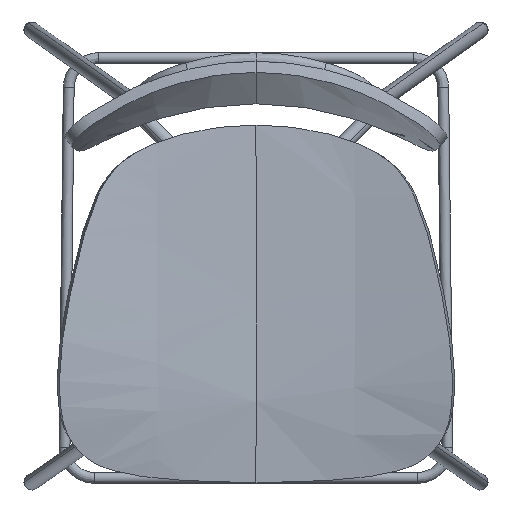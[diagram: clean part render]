
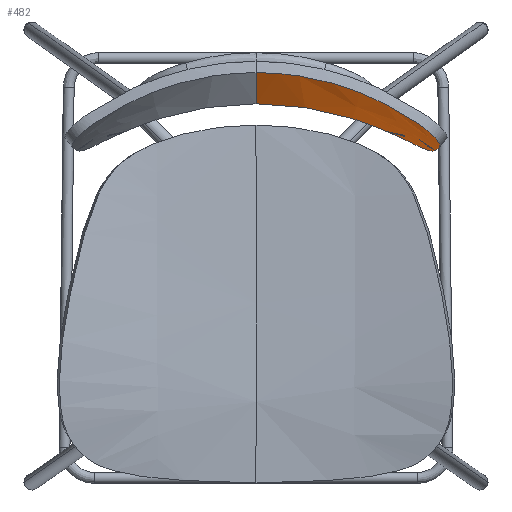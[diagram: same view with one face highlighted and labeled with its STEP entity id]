
A CAD part, top view. The second image highlights one B-rep face of the part: STEP entity #482.
In plain terms, the highlighted free-form (B-spline) face has degree [3, 2] with [5, 3] control points.
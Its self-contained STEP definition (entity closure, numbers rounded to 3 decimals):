
#262=B_SPLINE_CURVE_WITH_KNOTS('',3,(#8088,#8089,#8090,#8091,#8092,#8093,
#8094,#8095,#8096,#8097,#8098,#8099,#8100,#8101,#8102,#8103,#8104,#8105,
#8106,#8107,#8108,#8109,#8110,#8111,#8112,#8113,#8114,#8115,#8116,#8117,
#8118,#8119,#8120,#8121,#8122,#8123),.UNSPECIFIED.,.F.,.F.,(4,2,3,2,2,2,
2,3,3,2,2,2,2,3,2,4),(-142.402,-73.146,-3.882,
-3.638,-3.393,-3.269,-3.139,-2.882,
25.85,26.111,26.242,26.365,26.608,
26.85,115.079,203.244),.UNSPECIFIED.);
#482=ADVANCED_FACE('',(#672),#2588,.T.);
#672=FACE_OUTER_BOUND('',#864,.T.);
#864=EDGE_LOOP('',(#1578,#1579));
#1578=ORIENTED_EDGE('',*,*,#2028,.T.);
#1579=ORIENTED_EDGE('',*,*,#2026,.T.);
#2026=EDGE_CURVE('',#2515,#2514,#2282,.T.);
#2028=EDGE_CURVE('',#2514,#2515,#262,.T.);
#2282=(
BOUNDED_CURVE()
B_SPLINE_CURVE(3,(#8074,#8075,#8076,#8077,#8078,#8079,#8080),
 .UNSPECIFIED.,.F.,.F.)
B_SPLINE_CURVE_WITH_KNOTS((4,3,4),(-140.114,-70.057,
0.),.UNSPECIFIED.)
CURVE()
GEOMETRIC_REPRESENTATION_ITEM()
RATIONAL_B_SPLINE_CURVE((1.,0.965,0.931,0.898,
0.931,0.965,1.))
REPRESENTATION_ITEM('')
);
#2514=VERTEX_POINT('',#8070);
#2515=VERTEX_POINT('',#8071);
#2588=(
BOUNDED_SURFACE()
B_SPLINE_SURFACE(3,2,((#7860,#7861,#7862),(#7863,#7864,#7865),(#7866,#7867,
#7868),(#7869,#7870,#7871),(#7872,#7873,#7874)),.UNSPECIFIED.,.F.,.F.,.F.)
B_SPLINE_SURFACE_WITH_KNOTS((4,1,4),(3,3),(-5.332,70.057,
145.446),(-3.978,234.884),.UNSPECIFIED.)
GEOMETRIC_REPRESENTATION_ITEM()
RATIONAL_B_SPLINE_SURFACE(((1.003,0.898,0.898),
(1.003,0.898,0.898),(1.003,
0.898,0.898),(1.003,0.898,
0.898),(1.003,0.898,0.898)))
REPRESENTATION_ITEM('')
SURFACE()
);
#7860=CARTESIAN_POINT('',(189.507,139.669,903.515));
#7861=CARTESIAN_POINT('',(105.876,202.929,888.902));
#7862=CARTESIAN_POINT('',(0.,202.929,888.902));
#7863=CARTESIAN_POINT('',(189.507,143.816,928.328));
#7864=CARTESIAN_POINT('',(105.876,207.076,913.714));
#7865=CARTESIAN_POINT('',(0.,207.076,913.714));
#7866=CARTESIAN_POINT('',(189.507,153.615,977.605));
#7867=CARTESIAN_POINT('',(105.876,216.875,962.992));
#7868=CARTESIAN_POINT('',(0.,216.875,962.992));
#7869=CARTESIAN_POINT('',(189.507,166.422,1026.187));
#7870=CARTESIAN_POINT('',(105.876,229.682,1011.574));
#7871=CARTESIAN_POINT('',(0.,229.682,1011.574));
#7872=CARTESIAN_POINT('',(189.507,173.578,1050.305));
#7873=CARTESIAN_POINT('',(105.876,236.838,1035.691));
#7874=CARTESIAN_POINT('',(0.,236.838,1035.691));
#8070=CARTESIAN_POINT('',(0.,203.82,894.164));
#8071=CARTESIAN_POINT('',(0.,235.331,1030.572));
#8074=CARTESIAN_POINT('',(0.,235.331,1030.572));
#8075=CARTESIAN_POINT('',(0.,228.78,1008.137));
#8076=CARTESIAN_POINT('',(0.,222.879,985.552));
#8077=CARTESIAN_POINT('',(0.,217.627,962.818));
#8078=CARTESIAN_POINT('',(0.,212.375,940.083));
#8079=CARTESIAN_POINT('',(0.,207.773,917.199));
#8080=CARTESIAN_POINT('',(0.,203.82,894.164));
#8088=CARTESIAN_POINT('',(0.,203.82,894.164));
#8089=CARTESIAN_POINT('',(23.683,203.82,894.164));
#8090=CARTESIAN_POINT('',(46.989,201.262,895.363));
#8091=CARTESIAN_POINT('',(91.817,191.58,899.913));
#8092=CARTESIAN_POINT('',(113.343,184.459,903.262));
#8093=CARTESIAN_POINT('',(133.581,175.38,907.55));
#8094=CARTESIAN_POINT('',(139.282,172.822,908.758));
#8095=CARTESIAN_POINT('',(144.911,170.174,910.527));
#8096=CARTESIAN_POINT('',(155.532,165.106,915.673));
#8097=CARTESIAN_POINT('',(160.555,162.669,919.06));
#8098=CARTESIAN_POINT('',(167.322,159.595,925.846));
#8099=CARTESIAN_POINT('',(169.428,158.683,928.396));
#8100=CARTESIAN_POINT('',(173.213,157.184,933.913));
#8101=CARTESIAN_POINT('',(174.902,156.597,936.924));
#8102=CARTESIAN_POINT('',(179.287,155.396,946.435));
#8103=CARTESIAN_POINT('',(181.349,155.318,953.462));
#8104=CARTESIAN_POINT('',(182.712,155.956,961.093));
#8105=CARTESIAN_POINT('',(184.39,156.743,970.49));
#8106=CARTESIAN_POINT('',(185.724,157.869,979.88));
#8107=CARTESIAN_POINT('',(186.737,159.367,989.34));
#8108=CARTESIAN_POINT('',(187.241,160.113,994.046));
#8109=CARTESIAN_POINT('',(187.241,161.246,998.604));
#8110=CARTESIAN_POINT('',(186.132,163.698,1004.851));
#8111=CARTESIAN_POINT('',(185.574,164.645,1006.84));
#8112=CARTESIAN_POINT('',(184.062,166.745,1010.44));
#8113=CARTESIAN_POINT('',(183.105,167.911,1012.098));
#8114=CARTESIAN_POINT('',(179.822,171.501,1016.32));
#8115=CARTESIAN_POINT('',(177.15,173.974,1018.198));
#8116=CARTESIAN_POINT('',(171.401,178.742,1020.797));
#8117=CARTESIAN_POINT('',(168.288,181.065,1021.521));
#8118=CARTESIAN_POINT('',(165.154,183.222,1021.897));
#8119=CARTESIAN_POINT('',(141.765,199.315,1024.709));
#8120=CARTESIAN_POINT('',(115.863,212.358,1026.875));
#8121=CARTESIAN_POINT('',(60.273,230.369,1029.805));
#8122=CARTESIAN_POINT('',(30.572,235.331,1030.572));
#8123=CARTESIAN_POINT('',(0.,235.331,1030.572));
